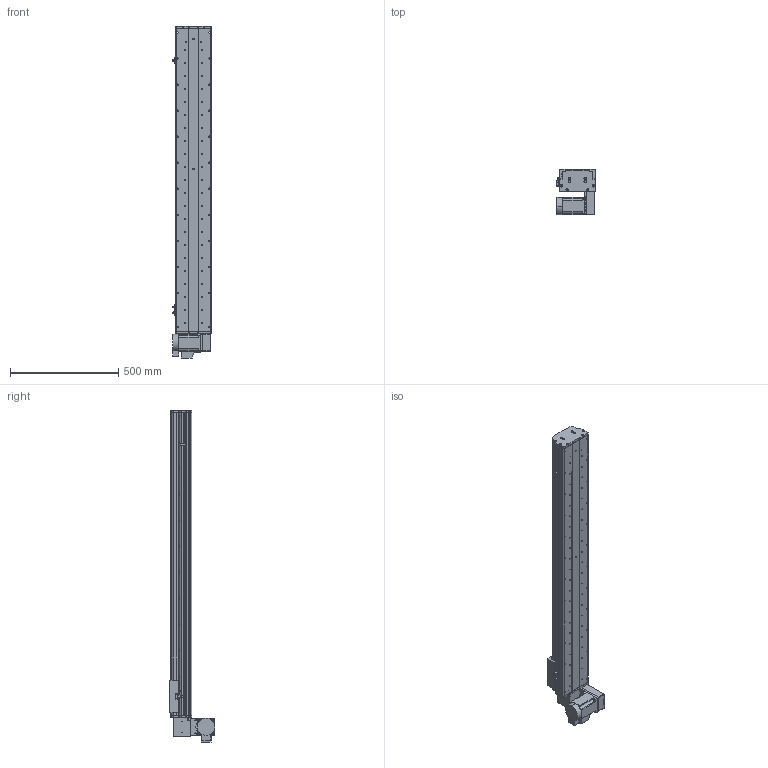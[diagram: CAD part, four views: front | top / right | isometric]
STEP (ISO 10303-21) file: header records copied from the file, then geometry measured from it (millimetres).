
FILE_DESCRIPTION (( 'STEP AP214' ), '1' );
FILE_NAME ('KSD165B-S1150-MRD-CM.STEP', '2017-10-17T00:39:48', ( '微软用户' ), ( '微软中国' ), 'SwSTEP 2.0', 'SolidWorks 2014', '' );
FILE_SCHEMA (( 'AUTOMOTIVE_DESIGN' ));
Length unit declared in the file: millimetre
Products named in the file (17): 165宽马达安装板同步带右; U倰嫖萇假蚾璃; U倰嫖萇EEㄜSX672; 覜茼え68遵圉猾敕; KSD165模组-同步带-防撞垫2; KSD165模组同步带-防撞垫1; KSD165耀郪-ヶ傷啣1-肮祭湍; KSD165模组-后端板1-同步带; KSD165模组-同步带滑动座-最新版; KSD165B-S1150-MRD-CM; 130宽模组马达安装板连板上下折丝杆同步带; 130宽模组保护罩上下左右折-同步带; HTPA26S5M250-A-H8 750W萇儂蚚; HTPA26S5M250-A-H8 400W萇儂蚚 ; KSD165模组-同步带防尘盖1-1150行程; KSD165模组同步带底板-1150行程; 拸秶雄ん750W侜督萇儂
Assembly tree (20 placements, depth 2):
  KSD165B-S1150-MRD-CM
    KSD165模组-同步带滑动座-最新版
    KSD165模组-后端板1-同步带
    KSD165耀郪-ヶ傷啣1-肮祭湍
    KSD165模组同步带-防撞垫1
    KSD165模组-同步带-防撞垫2
    覜茼え68遵圉猾敕
    U倰嫖萇EEㄜSX672  x3
    U倰嫖萇假蚾璃  x3
    165宽马达安装板同步带右
    拸秶雄ん750W侜督萇儂
    KSD165模组同步带底板-1150行程
    KSD165模组-同步带防尘盖1-1150行程
    HTPA26S5M250-A-H8 400W萇儂蚚 
    HTPA26S5M250-A-H8 750W萇儂蚚
    130宽模组保护罩上下左右折-同步带
    130宽模组马达安装板连板上下折丝杆同步带
Bounding box: 178.7 x 210 x 1530.5 mm (x, y, z)
Volume: 8594851 mm3; surface area: 1999477.5 mm2
Topology: 21 solids, 21 shells, 1993 faces, 5634 edges, 3680 vertices
Faces by surface type: cylinder 1291, plane 590, cone 112
Entity records: 65052 total; most frequent: CARTESIAN_POINT 13336, DIRECTION 10662, ORIENTED_EDGE 9928, EDGE_CURVE 4964, AXIS2_PLACEMENT_3D 4188, VERTEX_POINT 3272, CIRCLE 2392, VECTOR 2286
